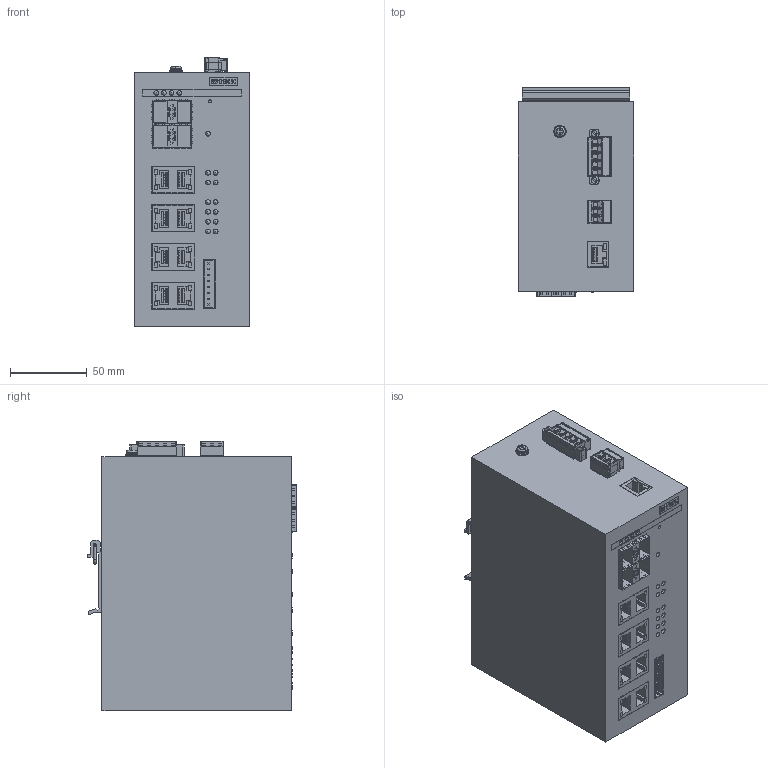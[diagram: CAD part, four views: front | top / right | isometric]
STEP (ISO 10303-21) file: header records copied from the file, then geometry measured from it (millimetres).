
FILE_DESCRIPTION(('TFLEX Exchange Step'),'2;1');
FILE_NAME('70110067_STEZ3308G-4GSFP-POE-DIDO.stp', '2025-08-28T08:37:09+03:00',('YLedovskikh'),('Unknown organisation'),'TFLEX Exchange 2023.2','T-FLEX CAD','Unknown authorisation');
FILE_SCHEMA( ('AUTOMOTIVE_DESIGN { 1 0 10303 214 1 1 1 1 }') );
Length unit declared in the file: millimetre
Products named in the file (1): Тело_31:1
Bounding box: 75 x 135.5 x 174.8 mm (x, y, z)
Volume: 1504502.3 mm3; surface area: 155712 mm2
Topology: 3 solids, 31 shells, 3013 faces, 8898 edges, 5919 vertices
Faces by surface type: plane 2090, cylinder 674, bspline 161, cone 32, sphere 29, extrusion 16, torus 11
Full cylindrical faces by diameter (mm): 0.8 x8, 0.9 x4, 1.02 x32, 1.3 x8, 1.5 x6, 1.6 x8, 2.5 x2, 2.6 x2, 3 x25, 3.2 x4, 3.25 x2, 3.8 x2, 3.821 x8, 3.9 x2, 4 x10, 4.4 x1, 6.8 x1, 8 x1
Entity records: 104350 total; most frequent: CARTESIAN_POINT 21857, ORIENTED_EDGE 17746, DIRECTION 15798, EDGE_CURVE 8873, VECTOR 6472, LINE 6456, VERTEX_POINT 5915, AXIS2_PLACEMENT_3D 4663
